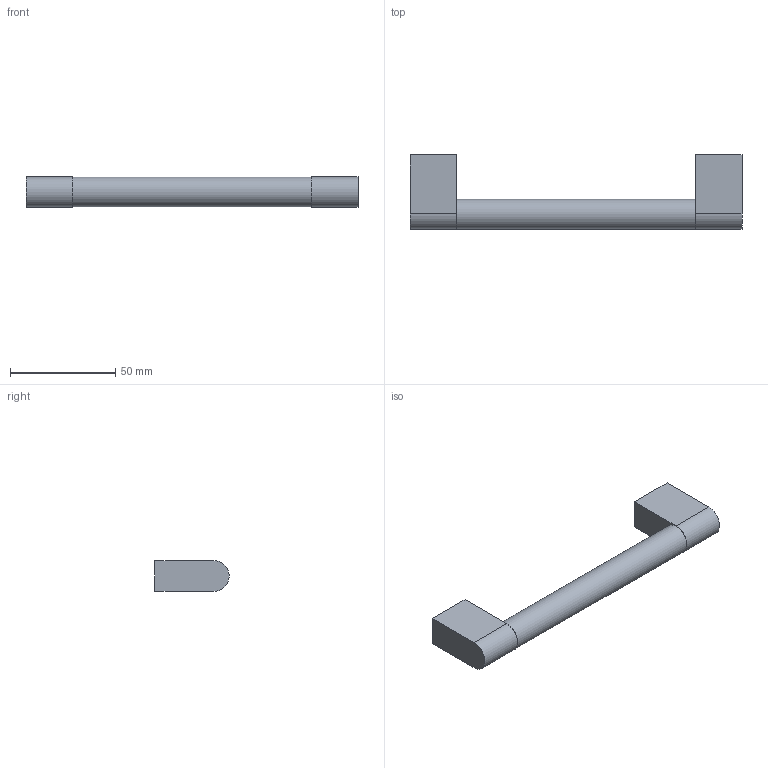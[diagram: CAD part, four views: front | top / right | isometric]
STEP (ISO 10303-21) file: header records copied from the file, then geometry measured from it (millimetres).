
FILE_DESCRIPTION( ( 'STEP AP214' ), '1' );
FILE_NAME( 'C:/Shahbaz/Shahbaz D&D/Task/Working-ON/Varna/QC/9332317.stp', '2023-08-29T06:55:04', ( '' ), ( '' ), ' ', 'PARTsolutions', ' ' );
FILE_SCHEMA( ( 'AUTOMOTIVE_DESIGN { 1 0 10303 214 1 1 1 1 }' ) );
Length unit declared in the file: millimetre
Products named in the file (1): _9332317
Bounding box: 158 x 35.36 x 14.64 mm (x, y, z)
Volume: 38913.8 mm3; surface area: 11455.4 mm2
Topology: 1 solids, 1 shells, 17 faces, 33 edges, 22 vertices
Faces by surface type: plane 12, cylinder 5
Full cylindrical faces by diameter (mm): 6.2 x2, 14.2 x1
Entity records: 574 total; most frequent: DIRECTION 76, CARTESIAN_POINT 70, ORIENTED_EDGE 60, EDGE_CURVE 30, AXIS2_PLACEMENT_3D 28, EDGE_LOOP 24, VERTEX_POINT 22, FACE_OUTER_BOUND 20
